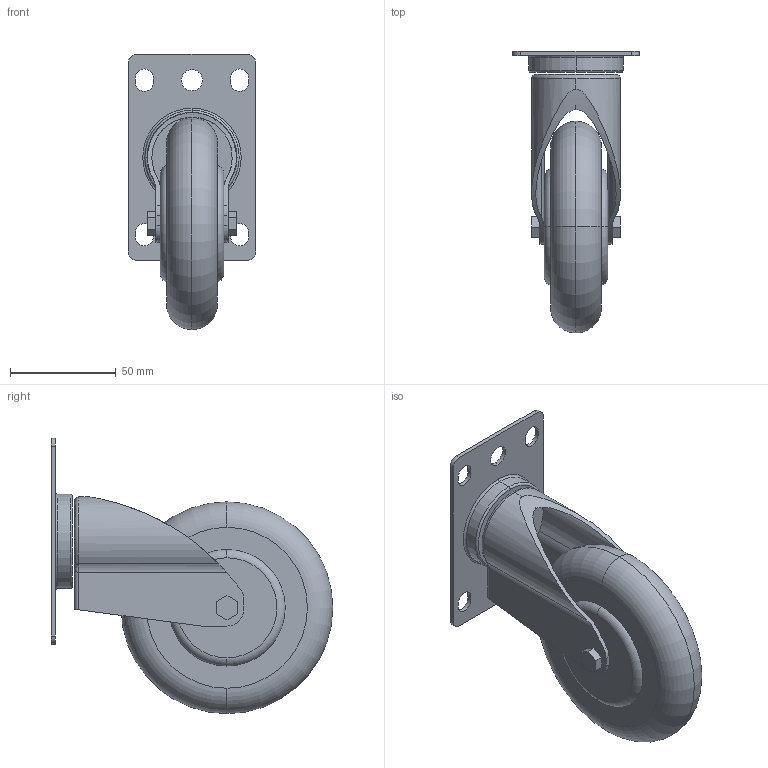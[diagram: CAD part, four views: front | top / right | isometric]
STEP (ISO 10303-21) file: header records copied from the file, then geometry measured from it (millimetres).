
FILE_DESCRIPTION (( 'STEP AP214' ), '1' );
FILE_NAME ('015.400.002.STEP', '2017-12-21T13:26:29', ( '' ), ( '' ), 'SwSTEP 2.0', 'SolidWorks 2016', '' );
FILE_SCHEMA (( 'AUTOMOTIVE_DESIGN' ));
Length unit declared in the file: millimetre
Products named in the file (1): 015.400.002
Bounding box: 60 x 133 x 130 mm (x, y, z)
Volume: 225242.9 mm3; surface area: 62131.1 mm2
Topology: 7 solids, 7 shells, 100 faces, 245 edges, 158 vertices
Faces by surface type: plane 48, cylinder 37, torus 13, bspline 2
Entity records: 3420 total; most frequent: CARTESIAN_POINT 902, DIRECTION 522, ORIENTED_EDGE 486, EDGE_CURVE 243, AXIS2_PLACEMENT_3D 194, VERTEX_POINT 158, LINE 134, VECTOR 134
